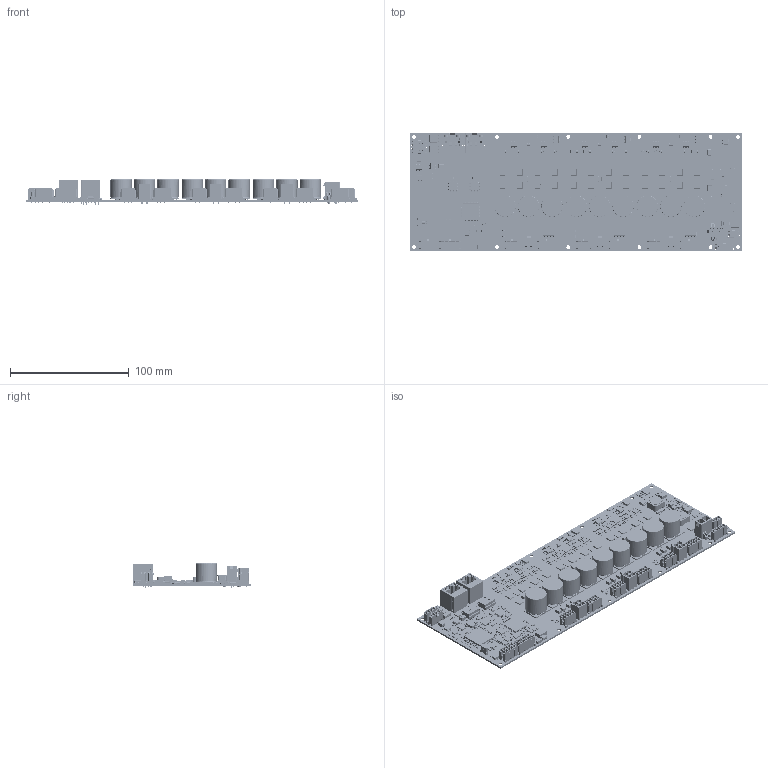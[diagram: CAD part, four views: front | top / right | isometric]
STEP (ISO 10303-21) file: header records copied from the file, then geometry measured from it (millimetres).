
FILE_DESCRIPTION(/* description */ (''),/* implementation_level */ '2;1');
FILE_NAME(/* name */ 'C:/Users/buesch/Desktop/Büsch/Module/TMCM-3214_v11.step',/* time_stamp */ '2019-05-15T11:33:47+02:00',/* author */ (''),/* organization */ (''),/* preprocessor_version */ 'ST-DEVELOPER v18',/* originating_system */ 'Autodesk Translation Framework v8.2.0.1029',/* authorisation */ '');
FILE_SCHEMA (('AUTOMOTIVE_DESIGN { 1 0 10303 214 3 1 1 }'));
Length unit declared in the file: millimetre
Products named in the file (831): (Nicht gespeichert); Outline; c_el_K16_D180_L165; c_el_K16_D180_L166; c_el_K16_D180_L167; c_el_K16_D180_L168; c_el_K16_D180_L169; c_el_K16_D180_L170; c_el_K16_D180_L171; c_el_K16_D180_L172; c_el_K16_D180_L173; User_Library-SOT23-6; User_Library-SOT23-007; Chamfer; Cut; Chamfer001; Cut001; Chamfer002; Cut002; Cut003; Chamfer003; Chamfer004; Cut004; Chamfer005; Array007; Array008; #996497; Chamfer006; Array009; Array010; #996501; User_Library-SOT23-008; Chamfer007; Array011; Array012; #996506; Chamfer008; Array013; Array014; #996510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
Assembly tree (1438 placements, depth 2):
  (Nicht gespeichert)
    Outline
    c_el_K16_D180_L165
    c_el_K16_D180_L166
    c_el_K16_D180_L167
    c_el_K16_D180_L168
    c_el_K16_D180_L169
    c_el_K16_D180_L170
    c_el_K16_D180_L171
    c_el_K16_D180_L172
    c_el_K16_D180_L173
    User_Library-SOT23-6
    User_Library-SOT23-007
    Chamfer
    Cut
    Chamfer001
    Cut001
    Chamfer002
    Cut002
    Cut003
    Chamfer003
    Chamfer004
    Cut004
    Chamfer005
    Array007
    Array008
    #996497
    Chamfer006
    Array009
    Array010
    #996501
    User_Library-SOT23-008
    Chamfer007
    Array011
    Array012
    #996506
    Chamfer008
    Array013
    Array014
    #996510
    COMPOUND
    COMPOUND001
    COMPOUND002
    COMPOUND003
    COMPOUND004
    COMPOUND005
    COMPOUND006
    COMPOUND007
    COMPOUND008
    COMPOUND009
    COMPOUND010
    COMPOUND011
    COMPOUND012
    COMPOUND013
    COMPOUND014
    COMPOUND015
    Chamfer009
    Array015
    Array016
    #996530
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Bounding box: 280 x 100 x 21.12 mm (x, y, z)
Volume: 106062.3 mm3; surface area: 127427.3 mm2
Topology: 1403 solids, 1403 shells, 35442 faces, 90016 edges, 56986 vertices
Faces by surface type: plane 24717, cylinder 7399, bspline 1206, torus 1175, sphere 919, cone 26
Full cylindrical faces by diameter (mm): 0.08 x32, 0.3 x27, 0.337 x12, 0.4 x7, 0.402 x2, 0.404 x2, 0.432 x5, 0.469 x1, 0.5 x9, 0.7 x2, 0.86 x16, 0.98 x2, 1 x29, 1.02 x4, 1.1 x78, 1.2 x6, 1.27 x4, 1.3 x4, 1.4 x12, 1.5 x2, 1.7 x4, 1.8 x2, 3 x2, 3.2 x12, 3.25 x4, 3.35 x2, 3.42 x2, 3.5 x2, 4 x2, 9.5 x2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
Entity records: 997149 total; most frequent: CARTESIAN_POINT 278344, ORIENTED_EDGE 143864, DIRECTION 136860, EDGE_CURVE 71932, LINE 58146, VECTOR 58146, VERTEX_POINT 46751, AXIS2_PLACEMENT_3D 39357
